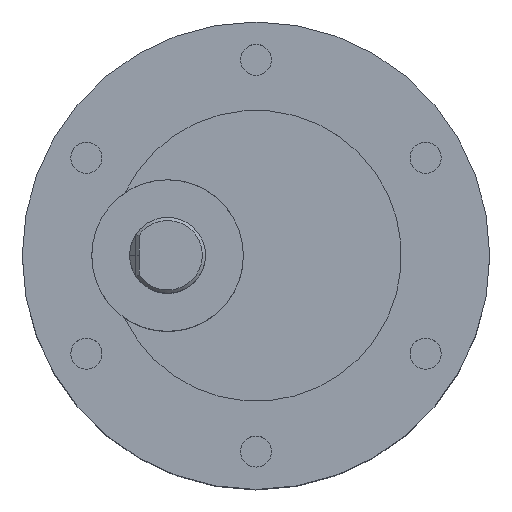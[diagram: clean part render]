
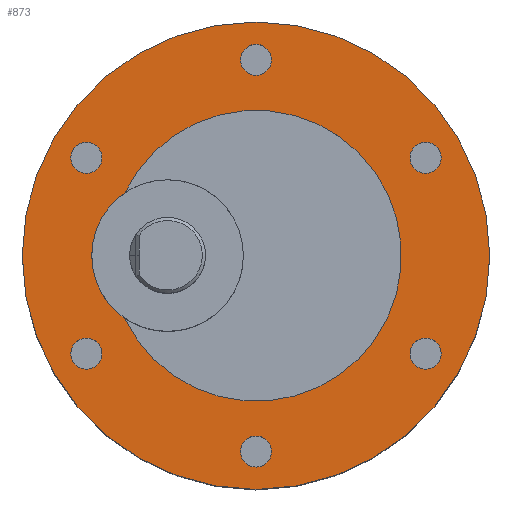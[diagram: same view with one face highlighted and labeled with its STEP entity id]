
A CAD part, top view. The second image highlights one B-rep face of the part: STEP entity #873.
In plain terms, the highlighted planar face has unit normal (0, 0, 1).
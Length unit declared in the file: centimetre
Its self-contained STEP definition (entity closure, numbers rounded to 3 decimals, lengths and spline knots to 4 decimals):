
#304=VERTEX_POINT('',#3116);
#306=VERTEX_POINT('',#3122);
#308=VERTEX_POINT('',#3128);
#310=VERTEX_POINT('',#3134);
#312=VERTEX_POINT('',#3140);
#314=VERTEX_POINT('',#3146);
#317=VERTEX_POINT('',#3153);
#318=VERTEX_POINT('',#3155);
#319=VERTEX_POINT('',#3161);
#402=EDGE_CURVE('',#304,#304,#1698,.T.);
#404=EDGE_CURVE('',#306,#306,#1700,.T.);
#406=EDGE_CURVE('',#308,#308,#1702,.T.);
#408=EDGE_CURVE('',#310,#310,#1704,.T.);
#410=EDGE_CURVE('',#312,#312,#1706,.T.);
#412=EDGE_CURVE('',#314,#314,#1708,.T.);
#415=EDGE_CURVE('',#318,#317,#1710,.T.);
#418=EDGE_CURVE('',#319,#319,#1712,.T.);
#419=EDGE_CURVE('',#317,#318,#1713,.T.);
#597=ORIENTED_EDGE('',*,*,#402,.T.);
#598=ORIENTED_EDGE('',*,*,#404,.T.);
#599=ORIENTED_EDGE('',*,*,#406,.T.);
#600=ORIENTED_EDGE('',*,*,#408,.T.);
#601=ORIENTED_EDGE('',*,*,#410,.T.);
#602=ORIENTED_EDGE('',*,*,#412,.T.);
#603=ORIENTED_EDGE('',*,*,#418,.F.);
#604=ORIENTED_EDGE('',*,*,#415,.T.);
#605=ORIENTED_EDGE('',*,*,#419,.T.);
#717=EDGE_LOOP('',(#597));
#718=EDGE_LOOP('',(#598));
#719=EDGE_LOOP('',(#599));
#720=EDGE_LOOP('',(#600));
#721=EDGE_LOOP('',(#601));
#722=EDGE_LOOP('',(#602));
#723=EDGE_LOOP('',(#603));
#724=EDGE_LOOP('',(#604,#605));
#803=FACE_BOUND('',#717,.T.);
#804=FACE_BOUND('',#718,.T.);
#805=FACE_BOUND('',#719,.T.);
#806=FACE_BOUND('',#720,.T.);
#807=FACE_BOUND('',#721,.T.);
#808=FACE_BOUND('',#722,.T.);
#809=FACE_BOUND('',#723,.T.);
#810=FACE_BOUND('',#724,.T.);
#873=ADVANCED_FACE('',(#803,#804,#805,#806,#807,#808,#809,#810),#2335,.T.);
#1698=CIRCLE('',#2115,0.123);
#1700=CIRCLE('',#2119,0.123);
#1702=CIRCLE('',#2123,0.123);
#1704=CIRCLE('',#2127,0.123);
#1706=CIRCLE('',#2131,0.123);
#1708=CIRCLE('',#2135,0.123);
#1710=CIRCLE('',#2139,1.1513);
#1712=CIRCLE('',#2143,1.85);
#1713=CIRCLE('',#2144,0.6);
#2115=AXIS2_PLACEMENT_3D('',#3115,#2651,#2652);
#2119=AXIS2_PLACEMENT_3D('',#3121,#2658,#2659);
#2123=AXIS2_PLACEMENT_3D('',#3127,#2665,#2666);
#2127=AXIS2_PLACEMENT_3D('',#3133,#2672,#2673);
#2131=AXIS2_PLACEMENT_3D('',#3139,#2679,#2680);
#2135=AXIS2_PLACEMENT_3D('',#3145,#2686,#2687);
#2139=AXIS2_PLACEMENT_3D('',#3154,#2694,#2695);
#2142=AXIS2_PLACEMENT_3D('',#3159,#2700,$);
#2143=AXIS2_PLACEMENT_3D('',#3160,#2701,#2702);
#2144=AXIS2_PLACEMENT_3D('',#3162,#2703,#2704);
#2335=PLANE('',#2142);
#2651=DIRECTION('',(0.,0.,-1.));
#2652=DIRECTION('',(0.,0.123,0.));
#2658=DIRECTION('',(0.,0.,-1.));
#2659=DIRECTION('',(0.,0.123,0.));
#2665=DIRECTION('',(0.,0.,-1.));
#2666=DIRECTION('',(0.,0.123,0.));
#2672=DIRECTION('',(0.,0.,-1.));
#2673=DIRECTION('',(0.,0.123,0.));
#2679=DIRECTION('',(0.,0.,-1.));
#2680=DIRECTION('',(0.,0.123,0.));
#2686=DIRECTION('',(0.,0.,-1.));
#2687=DIRECTION('',(0.,0.123,0.));
#2694=DIRECTION('',(0.,0.,-1.));
#2695=DIRECTION('',(1.151,0.,0.));
#2700=DIRECTION('',(0.,0.,1.));
#2701=DIRECTION('',(0.,0.,-1.));
#2702=DIRECTION('',(1.85,0.,0.));
#2703=DIRECTION('',(0.,0.,-1.));
#2704=DIRECTION('',(0.6,0.,0.));
#3115=CARTESIAN_POINT('',(-1.3423,-0.775,4.8));
#3116=CARTESIAN_POINT('',(-1.3423,-0.6521,4.8));
#3121=CARTESIAN_POINT('',(0.,-1.55,4.8));
#3122=CARTESIAN_POINT('',(0.,-1.4271,4.8));
#3127=CARTESIAN_POINT('',(1.3423,-0.775,4.8));
#3128=CARTESIAN_POINT('',(1.3423,-0.652,4.8));
#3133=CARTESIAN_POINT('',(1.3423,0.775,4.8));
#3134=CARTESIAN_POINT('',(1.3423,0.898,4.8));
#3139=CARTESIAN_POINT('',(-1.3423,0.775,4.8));
#3140=CARTESIAN_POINT('',(-1.3423,0.8979,4.8));
#3145=CARTESIAN_POINT('',(0.,1.55,4.8));
#3146=CARTESIAN_POINT('',(0.,1.673,4.8));
#3153=CARTESIAN_POINT('',(-1.0396,-0.4946,4.8));
#3154=CARTESIAN_POINT('',(0.,0.,4.8));
#3155=CARTESIAN_POINT('',(-1.0396,0.4946,4.8));
#3159=CARTESIAN_POINT('',(0.,0.,4.8));
#3160=CARTESIAN_POINT('',(0.,0.,4.8));
#3161=CARTESIAN_POINT('',(1.85,0.,4.8));
#3162=CARTESIAN_POINT('',(-0.7,0.,4.8));
